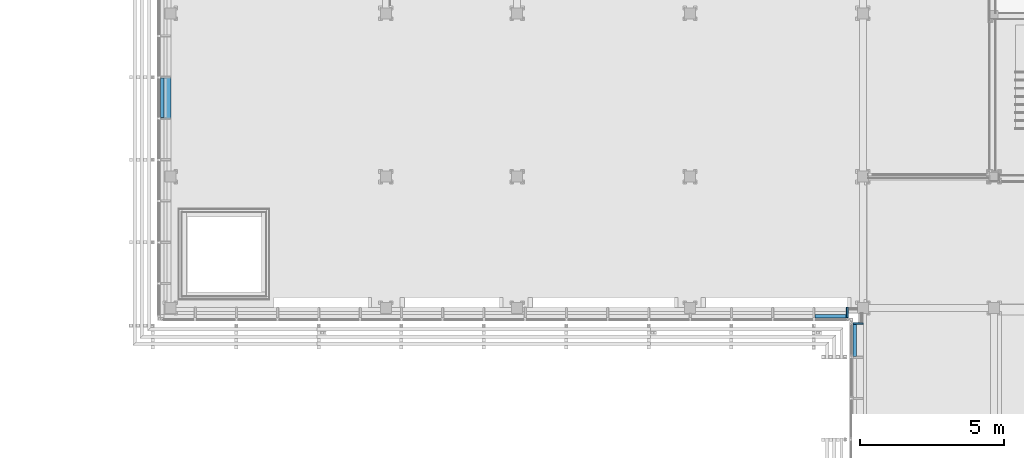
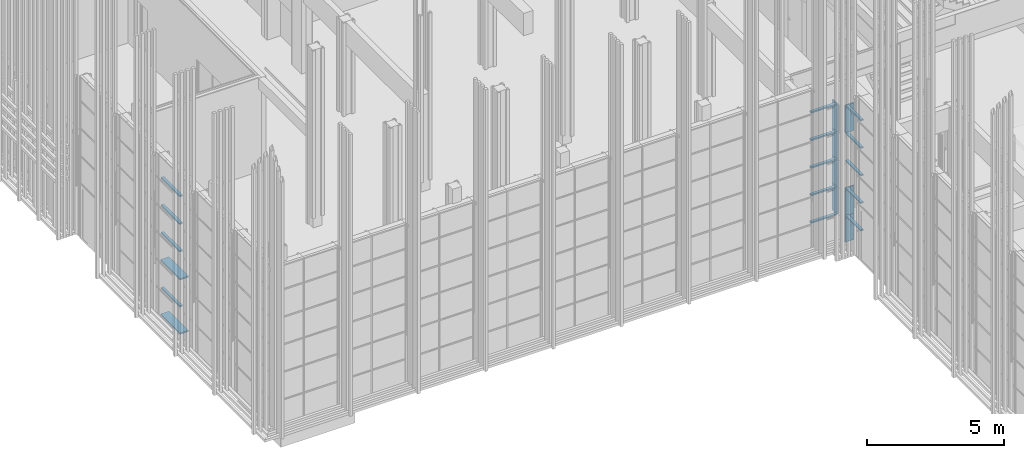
# One storey, part 22 of 260: 23 members, 2 elements without a shape of their own.
"""IFC2X3 building model written with IfcOpenShell, lengths in millimetres."""

from ifc_helpers import new_model, entity, si_unit, converted_unit, derived_unit, money_unit, direction, frame, origin_with_axes, place, context, subcontext, project, spatial, faceted_brep, source, transform, mapped, material, type_object, element, aggregate, save


model = new_model("IFC2X3")

# Units and contexts
model_context = context("Model", 3, precision=0.01, world=origin_with_axes(), true_north=direction((0.0, 1.0)))
body_context = subcontext(model_context, "Body", "Model", "MODEL_VIEW")
ifc_project = project(units=[si_unit("LENGTHUNIT", "METRE", prefix="MILLI"), si_unit("AREAUNIT", "SQUARE_METRE"), si_unit("VOLUMEUNIT", "CUBIC_METRE"), converted_unit("PLANEANGLEUNIT", "DEGREE", entity("IfcPlaneAngleMeasure", 0.0174532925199), si_unit("PLANEANGLEUNIT", "RADIAN"), dimensions=[0, 0, 0, 0, 0, 0, 0]), money_unit("EUR"), converted_unit("TIMEUNIT", "Year", entity("IfcTimeMeasure", 31556926.0), si_unit("TIMEUNIT", "SECOND"), dimensions=[0, 0, 1, 0, 0, 0, 0]), si_unit("MASSUNIT", "GRAM", prefix="KILO"), si_unit("THERMODYNAMICTEMPERATUREUNIT", "DEGREE_CELSIUS"), si_unit("LUMINOUSINTENSITYUNIT", "LUMEN"), si_unit("ENERGYUNIT", "JOULE", prefix="MEGA"), derived_unit("THERMALCONDUCTANCEUNIT", [(si_unit("POWERUNIT", "WATT"), 1), (si_unit("LENGTHUNIT", "METRE"), -1), (si_unit("THERMODYNAMICTEMPERATUREUNIT", "KELVIN"), -1)]), derived_unit("SPECIFICHEATCAPACITYUNIT", [(si_unit("ENERGYUNIT", "JOULE"), 1), (si_unit("MASSUNIT", "GRAM", prefix="KILO"), -1), (si_unit("THERMODYNAMICTEMPERATUREUNIT", "KELVIN"), -1)]), derived_unit("MASSDENSITYUNIT", [(si_unit("MASSUNIT", "GRAM", prefix="KILO"), 1), (si_unit("VOLUMEUNIT", "CUBIC_METRE"), -1)])], contexts=[model_context])

# Site, building, storey
site_placement = place(None, origin_with_axes())
site = spatial("IfcSite", under=ifc_project, at=site_placement, Name="Kolde pst 67a", CompositionType="ELEMENT")
building_placement = place(site_placement, origin_with_axes())
building = spatial("IfcBuilding", under=site, at=building_placement, Name="Riigigümnaasium", CompositionType="ELEMENT")
storey_placement = place(building_placement, origin_with_axes())
storey = spatial("IfcBuildingStorey", under=building, at=storey_placement, Name="1. korrus", CompositionType="ELEMENT", Elevation=0.0)

# Curtain wall, members
curtain_wall_type = type_object("IfcCurtainWallType", Name="Curtain Wall Type", PredefinedType="NOTDEFINED")
curtain_wall_1_placement = place(storey_placement, frame((23890.0026791, 27220.1832522, -0.000253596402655), z_axis=(0.0, 0.0, 1.0), x_axis=(1.0, 0.0, 0.0)))
curtain_wall_1 = element("IfcCurtainWall", 1, at=curtain_wall_1_placement, inside=storey, type_object=curtain_wall_type, Name="Klaasfassaadi puitkarkass")
ifc_material = material(Name="_KANDETARIND - liimpuit vastavalt EK osale")
member_type_1 = type_object("IfcMemberType", Name="Transom Frame 60 x 120", PredefinedType="MEMBER")
shared_shape_1 = source(origin_with_axes(), body_context, "Body", "Brep", [
    faceted_brep([(-30.0, 0.0, 30.0), (-30.0, -120.0, 30.0), (-30.0, -120.0, 1400.0), (-30.0, 0.0, 1400.0), (30.0, 0.0, 30.0), (30.0, -120.0, 30.0), (30.0, -120.0, 1400.0), (30.0, 0.0, 1400.0)], [[[0, 1, 2, 3]], [[1, 0, 4, 5]], [[1, 5, 6, 2]], [[2, 6, 7, 3]], [[4, 0, 3, 7]], [[5, 4, 7, 6]]]),
])
member_1_placement = place(curtain_wall_1_placement, frame((1.83251493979e-05, 3575.0, 1230.0002536), z_axis=(5.12591492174e-09, 1.0, 0.0), x_axis=(0.0, 0.0, 1.0)))
member_1 = element("IfcMember", 2, at=member_1_placement, type_object=member_type_1, material=ifc_material, Name="RF RAAM HOR-648", ObjectType="MEMBER", context=body_context, shape_type="MappedRepresentation", body=[
    mapped(shared_shape_1, transform((0.0, 0.0, 0.0), x_axis=(-1.0, 0.0, 0.0), y_axis=(0.0, -1.0, -5.12591479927e-09), z_axis=(0.0, -5.12591479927e-09, 1.0))),
])
member_2_placement = place(curtain_wall_1_placement, frame((1.83251493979e-05, 3575.0, 3690.0002536), z_axis=(5.12591492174e-09, 1.0, 0.0), x_axis=(0.0, 0.0, 1.0)))
member_2 = element("IfcMember", 3, at=member_2_placement, type_object=member_type_1, material=ifc_material, Name="RF RAAM HOR-648", ObjectType="MEMBER", context=body_context, shape_type="MappedRepresentation", body=[
    mapped(shared_shape_1, transform((0.0, 0.0, 0.0), x_axis=(-1.0, 0.0, 0.0), y_axis=(0.0, -1.0, -5.12591479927e-09), z_axis=(0.0, -5.12591479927e-09, 1.0))),
])
member_3_placement = place(curtain_wall_1_placement, frame((1.83251493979e-05, 3575.0, 4920.0002536), z_axis=(5.12591492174e-09, 1.0, 0.0), x_axis=(0.0, 0.0, 1.0)))
member_3 = element("IfcMember", 4, at=member_3_placement, type_object=member_type_1, material=ifc_material, Name="RF RAAM HOR-648", ObjectType="MEMBER", context=body_context, shape_type="MappedRepresentation", body=[
    mapped(shared_shape_1, transform((0.0, 0.0, 0.0), x_axis=(-1.0, 0.0, 0.0), y_axis=(0.0, -1.0, -5.12591479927e-09), z_axis=(0.0, -5.12591479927e-09, 1.0))),
])
member_4_placement = place(curtain_wall_1_placement, frame((1.83251493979e-05, 3575.0, 6150.0002536), z_axis=(5.12591492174e-09, 1.0, 0.0), x_axis=(0.0, 0.0, 1.0)))
member_4 = element("IfcMember", 5, at=member_4_placement, type_object=member_type_1, material=ifc_material, Name="RF RAAM HOR-648", ObjectType="MEMBER", context=body_context, shape_type="MappedRepresentation", body=[
    mapped(shared_shape_1, transform((0.0, 0.0, 0.0), x_axis=(-1.0, 0.0, 0.0), y_axis=(0.0, -1.0, -5.12591479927e-09), z_axis=(0.0, -5.12591479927e-09, 1.0))),
])
member_type_2 = type_object("IfcMemberType", Name="Boundary Frame 60 x 360", PredefinedType="MEMBER")
shared_shape_2 = source(origin_with_axes(), body_context, "Body", "Brep", [
    faceted_brep([(-60.0, -360.0, 0.0), (-60.0, -360.0, 1430.0), (-60.0, 0.0, 1430.0), (-60.0, 0.0, 0.0), (0.0, -360.0, 0.0), (0.0, -360.0, 1430.0), (0.0, 0.0, 1430.0), (0.0, 0.0, 0.0)], [[[0, 1, 2, 3]], [[4, 5, 1, 0]], [[1, 5, 6, 2]], [[3, 2, 6, 7]], [[0, 3, 7, 4]], [[7, 6, 5, 4]]]),
])
member_5_placement = place(curtain_wall_1_placement, frame((1.83251493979e-05, 3575.0, 0.0), z_axis=(5.12591492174e-09, 1.0, 0.0), x_axis=(0.0, 0.0, 1.0)))
member_5 = element("IfcMember", 6, at=member_5_placement, type_object=member_type_2, material=ifc_material, Name="RF RAAM SERV-714", ObjectType="MEMBER", context=body_context, shape_type="MappedRepresentation", body=[
    mapped(shared_shape_2, transform((0.0, 0.0, 0.0), x_axis=(-1.0, 0.0, 0.0), y_axis=(0.0, -1.0, -5.12591479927e-09), z_axis=(0.0, -5.12591479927e-09, 1.0))),
])
shared_shape_3 = source(origin_with_axes(), body_context, "Body", "Brep", [
    faceted_brep([(-30.0, -360.0, 0.0), (-30.0, -360.0, 1430.0), (-30.0, 0.0, 1430.0), (-30.0, 0.0, 0.0), (30.0, -360.0, 0.0), (30.0, -360.0, 1430.0), (30.0, 0.0, 1430.0), (30.0, 0.0, 0.0)], [[[0, 1, 2, 3]], [[4, 5, 1, 0]], [[1, 5, 6, 2]], [[3, 2, 6, 7]], [[0, 3, 7, 4]], [[7, 6, 5, 4]]]),
])
member_6_placement = place(curtain_wall_1_placement, frame((1.83251493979e-05, 3575.0, 2460.0002536), z_axis=(5.12591492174e-09, 1.0, 0.0), x_axis=(0.0, 0.0, 1.0)))
member_6 = element("IfcMember", 7, at=member_6_placement, type_object=member_type_2, material=ifc_material, Name="RF RAAM HOR-648", ObjectType="MEMBER", context=body_context, shape_type="MappedRepresentation", body=[
    mapped(shared_shape_3, transform((0.0, 0.0, 0.0), x_axis=(-1.0, 0.0, 0.0), y_axis=(0.0, -1.0, -5.12591479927e-09), z_axis=(0.0, -5.12591479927e-09, 1.0))),
])
shared_shape_4 = source(origin_with_axes(), body_context, "Body", "Brep", [
    faceted_brep([(-30.0, 0.0, 60.0), (-30.0, -120.0, 60.0000004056), (-30.0, -120.0, 1150.04327458), (-30.0, 0.0, 1150.04327458), (30.0, 0.0, 60.0), (30.0, -120.0, 60.0000004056), (30.0, -120.0, 1150.04327458), (30.0, 0.0, 1150.04327458)], [[[0, 1, 2, 3]], [[1, 0, 4, 5]], [[1, 5, 6, 2]], [[2, 6, 7, 3]], [[4, 0, 3, 7]], [[5, 4, 7, 6]]]),
])
member_7_placement = place(curtain_wall_1_placement, frame((23829.4203303, -3330.16844509, 1230.0002536), z_axis=(-1.0, 0.0, 0.0), x_axis=(0.0, 0.0, 1.0)))
member_7 = element("IfcMember", 8, at=member_7_placement, type_object=member_type_1, material=ifc_material, Name="RF RAAM HOR-648", ObjectType="MEMBER", context=body_context, shape_type="MappedRepresentation", body=[
    mapped(shared_shape_4, transform((0.0, 0.0, 0.0), x_axis=(-1.0, 0.0, 0.0), y_axis=(0.0, -1.0, 0.0), z_axis=(0.0, 0.0, 1.0))),
])
member_8_placement = place(curtain_wall_1_placement, frame((23829.4203261, -3330.16844509, 2460.0002536), z_axis=(-1.0, 0.0, 0.0), x_axis=(0.0, 0.0, 1.0)))
member_8 = element("IfcMember", 9, at=member_8_placement, type_object=member_type_1, material=ifc_material, Name="RF RAAM HOR-648", ObjectType="MEMBER", context=body_context, shape_type="MappedRepresentation", body=[
    mapped(shared_shape_4, transform((0.0, 0.0, 0.0), x_axis=(-1.0, 0.0, 0.0), y_axis=(0.0, -1.0, 0.0), z_axis=(0.0, 0.0, 1.0))),
])
member_9_placement = place(curtain_wall_1_placement, frame((23829.4203178, -3330.16844509, 4920.0002536), z_axis=(-1.0, 0.0, 0.0), x_axis=(0.0, 0.0, 1.0)))
member_9 = element("IfcMember", 10, at=member_9_placement, type_object=member_type_1, material=ifc_material, Name="RF RAAM HOR-648", ObjectType="MEMBER", context=body_context, shape_type="MappedRepresentation", body=[
    mapped(shared_shape_4, transform((0.0, 0.0, 0.0), x_axis=(-1.0, 0.0, 0.0), y_axis=(0.0, -1.0, 0.0), z_axis=(0.0, 0.0, 1.0))),
])
member_10_placement = place(curtain_wall_1_placement, frame((23829.420322, -3330.16844509, 3690.0002536), z_axis=(-1.0, 0.0, 0.0), x_axis=(0.0, 0.0, 1.0)))
member_10 = element("IfcMember", 11, at=member_10_placement, type_object=member_type_1, material=ifc_material, Name="RF RAAM HOR-648", ObjectType="MEMBER", context=body_context, shape_type="MappedRepresentation", body=[
    mapped(shared_shape_4, transform((0.0, 0.0, 0.0), x_axis=(-1.0, 0.0, 0.0), y_axis=(0.0, -1.0, 0.0), z_axis=(0.0, 0.0, 1.0))),
])
member_11_placement = place(curtain_wall_1_placement, frame((23829.4203137, -3330.16844509, 6150.0002536), z_axis=(-1.0, 0.0, 0.0), x_axis=(0.0, 0.0, 1.0)))
member_11 = element("IfcMember", 12, at=member_11_placement, type_object=member_type_1, material=ifc_material, Name="RF RAAM HOR-648", ObjectType="MEMBER", context=body_context, shape_type="MappedRepresentation", body=[
    mapped(shared_shape_4, transform((0.0, 0.0, 0.0), x_axis=(-1.0, 0.0, 0.0), y_axis=(0.0, -1.0, 0.0), z_axis=(0.0, 0.0, 1.0))),
])
shared_shape_5 = source(origin_with_axes(), body_context, "Body", "Brep", [
    faceted_brep([(-60.0, -360.0, 0.0), (-60.0, -360.0, 1230.0), (-60.0, 0.0, 1230.0), (-60.0, 0.0, 0.0), (0.0, -360.0, 0.0), (0.0, -360.0, 1230.0), (0.0, 0.0, 1230.0), (0.0, 0.0, 0.0)], [[[0, 1, 2, 3]], [[4, 5, 1, 0]], [[1, 5, 6, 2]], [[3, 2, 6, 7]], [[0, 3, 7, 4]], [[7, 6, 5, 4]]]),
])
member_12_placement = place(curtain_wall_1_placement, frame((23829.4203261, -3330.16844509, 2460.0002536), z_axis=(3.37960120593e-09, 0.0, -1.0), x_axis=(-1.0, 0.0, -3.37960120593e-09)))
member_12 = element("IfcMember", 13, at=member_12_placement, type_object=member_type_2, material=ifc_material, Name="RF RAAM SERV-706", ObjectType="MEMBER", context=body_context, shape_type="MappedRepresentation", body=[
    mapped(shared_shape_5, transform((0.0, 0.0, 0.0), x_axis=(-1.0, 0.0, 3.37960108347e-09), y_axis=(0.0, -1.0, 0.0), z_axis=(3.37960108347e-09, 0.0, 1.0))),
])
member_13_placement = place(curtain_wall_1_placement, frame((23829.420322, -3330.16844509, 3690.0002536), z_axis=(3.37959542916e-09, 0.0, -1.0), x_axis=(-1.0, 0.0, -3.37959542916e-09)))
member_13 = element("IfcMember", 14, at=member_13_placement, type_object=member_type_2, material=ifc_material, Name="RF RAAM SERV-705", ObjectType="MEMBER", context=body_context, shape_type="MappedRepresentation", body=[
    mapped(shared_shape_5, transform((0.0, 0.0, 0.0), x_axis=(-1.0, 0.0, 3.3795953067e-09), y_axis=(0.0, -1.0, 0.0), z_axis=(3.3795953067e-09, 0.0, 1.0))),
])
member_14_placement = place(curtain_wall_1_placement, frame((23829.4203178, -3330.16844509, 4920.0002536), z_axis=(3.37959542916e-09, 0.0, -1.0), x_axis=(-1.0, 0.0, -3.37959542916e-09)))
member_14 = element("IfcMember", 15, at=member_14_placement, type_object=member_type_2, material=ifc_material, Name="RF RAAM SERV-704", ObjectType="MEMBER", context=body_context, shape_type="MappedRepresentation", body=[
    mapped(shared_shape_5, transform((0.0, 0.0, 0.0), x_axis=(-1.0, 0.0, 3.3795953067e-09), y_axis=(0.0, -1.0, 0.0), z_axis=(3.3795953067e-09, 0.0, 1.0))),
])
member_15_placement = place(curtain_wall_1_placement, frame((23829.4203137, -3330.16844509, 6150.0002536), z_axis=(3.37959542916e-09, 0.0, -1.0), x_axis=(-1.0, 0.0, -3.37959542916e-09)))
member_15 = element("IfcMember", 16, at=member_15_placement, type_object=member_type_2, material=ifc_material, Name="RF RAAM SERV-703", ObjectType="MEMBER", context=body_context, shape_type="MappedRepresentation", body=[
    mapped(shared_shape_5, transform((0.0, 0.0, 0.0), x_axis=(-1.0, 0.0, 3.3795953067e-09), y_axis=(0.0, -1.0, 0.0), z_axis=(3.3795953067e-09, 0.0, 1.0))),
])
aggregate(curtain_wall_1, [member_5, member_1, member_6, member_2, member_3, member_4, member_7, member_8, member_9, member_10, member_11, member_12, member_13, member_14, member_15])

curtain_wall_2_placement = place(storey_placement, frame((47889.9854796, 7778.28071079, -0.000681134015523), z_axis=(0.0, 0.0, 1.0), x_axis=(1.0, 0.0, 0.0)))
curtain_wall_2 = element("IfcCurtainWall", 17, at=curtain_wall_2_placement, inside=storey, type_object=curtain_wall_type, Name="Klaasfassaadi puitkarkass")
member_16_placement = place(curtain_wall_2_placement, frame((-1.71327769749e-05, 15941.6918062, 4920.00068113), z_axis=(0.0, 0.0, 1.0), x_axis=(1.07471820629e-09, -1.0, 0.0)))
member_16 = element("IfcMember", 18, at=member_16_placement, type_object=member_type_2, material=ifc_material, Name="RF RAAM SERV-896", ObjectType="MEMBER", context=body_context, shape_type="MappedRepresentation", body=[
    mapped(shared_shape_5, transform((0.0, 0.0, 0.0), x_axis=(-1.0, 0.0, 0.0), y_axis=(0.0, -1.0, 0.0), z_axis=(0.0, 0.0, 1.0))),
])
member_17_placement = place(curtain_wall_2_placement, frame((-1.71327769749e-05, 15941.6918062, 1230.00068113), z_axis=(0.0, 0.0, 1.0), x_axis=(1.07471820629e-09, -1.0, 0.0)))
member_17 = element("IfcMember", 19, at=member_17_placement, type_object=member_type_2, material=ifc_material, Name="RF RAAM SERV-893", ObjectType="MEMBER", context=body_context, shape_type="MappedRepresentation", body=[
    mapped(shared_shape_5, transform((0.0, 0.0, 0.0), x_axis=(-1.0, 0.0, 0.0), y_axis=(0.0, -1.0, 0.0), z_axis=(0.0, 0.0, 1.0))),
])
shared_shape_6 = source(origin_with_axes(), body_context, "Body", "Brep", [
    faceted_brep([(-60.0, 0.0, 60.0), (-60.0, -360.0, 60.0), (-60.0, -360.0, 1230.0002536), (-60.0, 0.0, 1230.0002536), (0.0, 0.0, 0.0), (0.0, -360.0, 0.0), (0.0, -360.0, 1230.0002536), (0.0, 0.0, 1230.0002536)], [[[0, 1, 2, 3]], [[1, 0, 4, 5]], [[1, 5, 6, 2]], [[2, 6, 7, 3]], [[4, 0, 3, 7]], [[5, 4, 7, 6]]]),
])
member_18_placement = place(curtain_wall_2_placement, frame((-1.71327769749e-05, 15941.6918062, 0.0), z_axis=(0.0, 0.0, 1.0), x_axis=(1.07471820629e-09, -1.0, 0.0)))
member_18 = element("IfcMember", 20, at=member_18_placement, type_object=member_type_2, material=ifc_material, Name="RF RAAM SERV-892", ObjectType="MEMBER", context=body_context, shape_type="MappedRepresentation", body=[
    mapped(shared_shape_6, transform((0.0, 0.0, 0.0), x_axis=(-1.0, 0.0, 0.0), y_axis=(0.0, -1.0, 0.0), z_axis=(0.0, 0.0, 1.0))),
])
shared_shape_7 = source(origin_with_axes(), body_context, "Body", "Brep", [
    faceted_brep([(-30.0, 0.0, 30.0), (-30.0, -120.0, 30.0), (-30.0, -120.0, 1133.41117112), (-30.0, 0.0, 1133.41117112), (30.0, 0.0, 30.0), (30.0, -120.0, 30.0), (30.0, -120.0, 1133.41117112), (30.0, 0.0, 1133.41117112)], [[[0, 1, 2, 3]], [[1, 0, 4, 5]], [[1, 5, 6, 2]], [[2, 6, 7, 3]], [[4, 0, 3, 7]], [[5, 4, 7, 6]]]),
])
member_19_placement = place(curtain_wall_2_placement, frame((-1.58501975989e-05, 14748.2806351, 6150.00068113), z_axis=(-1.07471708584e-09, 1.0, 0.0), x_axis=(0.0, 0.0, 1.0)))
member_19 = element("IfcMember", 21, at=member_19_placement, type_object=member_type_1, material=ifc_material, Name="RF RAAM HOR-738", ObjectType="MEMBER", context=body_context, shape_type="MappedRepresentation", body=[
    mapped(shared_shape_7, transform((0.0, 0.0, 0.0), x_axis=(-1.0, 0.0, 0.0), y_axis=(0.0, -1.0, 1.07471696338e-09), z_axis=(0.0, 1.07471696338e-09, 1.0))),
])
member_20_placement = place(curtain_wall_2_placement, frame((-1.58501975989e-05, 14748.2806351, 4920.00068113), z_axis=(-1.07471708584e-09, 1.0, 0.0), x_axis=(0.0, 0.0, 1.0)))
member_20 = element("IfcMember", 22, at=member_20_placement, type_object=member_type_1, material=ifc_material, Name="RF RAAM HOR-739", ObjectType="MEMBER", context=body_context, shape_type="MappedRepresentation", body=[
    mapped(shared_shape_7, transform((0.0, 0.0, 0.0), x_axis=(-1.0, 0.0, 0.0), y_axis=(0.0, -1.0, 1.07471696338e-09), z_axis=(0.0, 1.07471696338e-09, 1.0))),
])
member_21_placement = place(curtain_wall_2_placement, frame((-1.58501975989e-05, 14748.2806351, 3690.00068113), z_axis=(-1.07471708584e-09, 1.0, 0.0), x_axis=(0.0, 0.0, 1.0)))
member_21 = element("IfcMember", 23, at=member_21_placement, type_object=member_type_1, material=ifc_material, Name="RF RAAM HOR-740", ObjectType="MEMBER", context=body_context, shape_type="MappedRepresentation", body=[
    mapped(shared_shape_7, transform((0.0, 0.0, 0.0), x_axis=(-1.0, 0.0, 0.0), y_axis=(0.0, -1.0, 1.07471696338e-09), z_axis=(0.0, 1.07471696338e-09, 1.0))),
])
member_22_placement = place(curtain_wall_2_placement, frame((-1.58501975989e-05, 14748.2806351, 2460.00068113), z_axis=(-1.07471708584e-09, 1.0, 0.0), x_axis=(0.0, 0.0, 1.0)))
member_22 = element("IfcMember", 24, at=member_22_placement, type_object=member_type_1, material=ifc_material, Name="RF RAAM HOR-741", ObjectType="MEMBER", context=body_context, shape_type="MappedRepresentation", body=[
    mapped(shared_shape_7, transform((0.0, 0.0, 0.0), x_axis=(-1.0, 0.0, 0.0), y_axis=(0.0, -1.0, 1.07471696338e-09), z_axis=(0.0, 1.07471696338e-09, 1.0))),
])
member_23_placement = place(curtain_wall_2_placement, frame((-1.58501975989e-05, 14748.2806351, 1230.00068113), z_axis=(-1.07471708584e-09, 1.0, 0.0), x_axis=(0.0, 0.0, 1.0)))
member_23 = element("IfcMember", 25, at=member_23_placement, type_object=member_type_1, material=ifc_material, Name="RF RAAM HOR-742", ObjectType="MEMBER", context=body_context, shape_type="MappedRepresentation", body=[
    mapped(shared_shape_7, transform((0.0, 0.0, 0.0), x_axis=(-1.0, 0.0, 0.0), y_axis=(0.0, -1.0, 1.07471696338e-09), z_axis=(0.0, 1.07471696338e-09, 1.0))),
])
aggregate(curtain_wall_2, [member_19, member_16, member_20, member_21, member_22, member_17, member_23, member_18])

save(model, "model.ifc")
